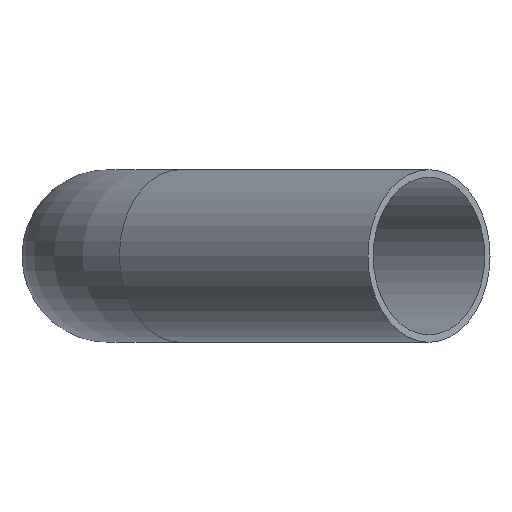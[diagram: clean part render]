
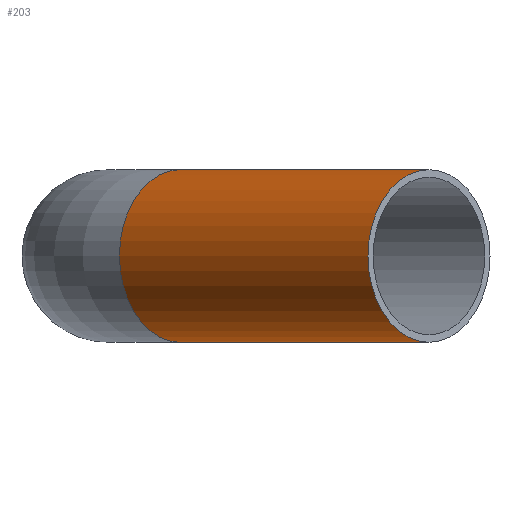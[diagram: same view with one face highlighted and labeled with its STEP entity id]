
A CAD part, left-side view. The second image highlights one B-rep face of the part: STEP entity #203.
In plain terms, the highlighted cylindrical face has radius 17.5 mm (diameter 35 mm), a full revolution.
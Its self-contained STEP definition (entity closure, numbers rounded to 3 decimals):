
#172=CARTESIAN_POINT('',(-47.73,47.73,0.));
#173=VERTEX_POINT('',#172);
#174=CARTESIAN_POINT('',(-35.355,35.355,0.0));
#175=DIRECTION('',(-0.707,-0.707,0.0));
#176=DIRECTION('',(0.707,-0.707,0.0));
#177=AXIS2_PLACEMENT_3D('',#174,#175,#176);
#178=CIRCLE('',#177,17.5);
#179=EDGE_CURVE('',#173,#173,#178,.T.);
#184=CARTESIAN_POINT('',(-85.765,-15.054,0.0));
#185=DIRECTION('',(0.707,0.707,0.0));
#186=DIRECTION('',(0.707,-0.707,0.0));
#187=AXIS2_PLACEMENT_3D('',#184,#185,#186);
#188=CYLINDRICAL_SURFACE('',#187,17.5);
#189=ORIENTED_EDGE('',*,*,#179,.T.);
#190=EDGE_LOOP('',(#189));
#191=FACE_OUTER_BOUND('',#190,.T.);
#192=CARTESIAN_POINT('',(-98.139,-2.679,0.));
#193=VERTEX_POINT('',#192);
#194=CARTESIAN_POINT('',(-85.765,-15.054,0.0));
#195=DIRECTION('',(-0.707,-0.707,0.0));
#196=DIRECTION('',(0.707,-0.707,0.0));
#197=AXIS2_PLACEMENT_3D('',#194,#195,#196);
#198=CIRCLE('',#197,17.5);
#199=EDGE_CURVE('',#193,#193,#198,.T.);
#200=ORIENTED_EDGE('',*,*,#199,.F.);
#201=EDGE_LOOP('',(#200));
#202=FACE_BOUND('',#201,.T.);
#203=ADVANCED_FACE('',(#191,#202),#188,.T.);
